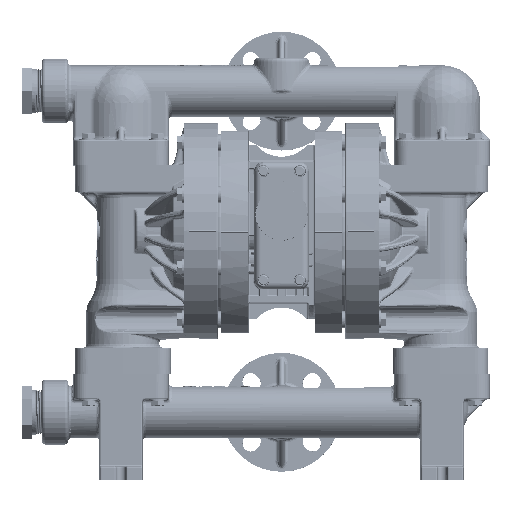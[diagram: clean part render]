
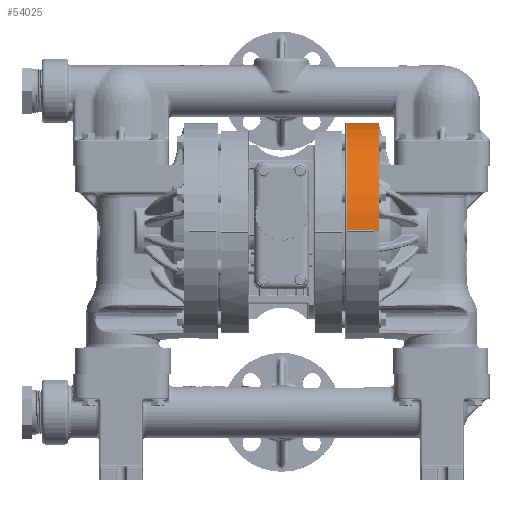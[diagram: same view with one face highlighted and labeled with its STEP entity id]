
A CAD part, top view. The second image highlights one B-rep face of the part: STEP entity #54025.
In plain terms, the highlighted conical face has half-angle 0.5 degrees and reference radius 104.926 mm.
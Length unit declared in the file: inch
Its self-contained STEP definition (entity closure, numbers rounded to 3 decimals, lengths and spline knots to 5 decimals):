
#3066 = EDGE_CURVE ( 'NONE', #161134, #157712, #405696, .T. ) ;
#4058 = CARTESIAN_POINT ( 'NONE',  ( 2.52, 0.09264, 4.12557 ) ) ;
#5358 = EDGE_CURVE ( 'NONE', #157712, #184920, #395876, .T. ) ;
#6618 = DIRECTION ( 'NONE',  ( 1., 0., 0.009 ) ) ;
#10746 = VECTOR ( 'NONE', #385097, 39.37008 ) ;
#16532 = EDGE_CURVE ( 'NONE', #138910, #25227, #196172, .T. ) ;
#20921 = DIRECTION ( 'NONE',  ( 0., 0., -1. ) ) ;
#25227 = VERTEX_POINT ( 'NONE', #227125 ) ;
#25552 = ORIENTED_EDGE ( 'NONE', *, *, #200782, .F. ) ;
#29850 = CARTESIAN_POINT ( 'NONE',  ( 2.52, 0.09264, -4.12557 ) ) ;
#40085 = CARTESIAN_POINT ( 'NONE',  ( 3.52, 0.08382, -4.1344 ) ) ;
#44199 = VERTEX_POINT ( 'NONE', #333488 ) ;
#50039 = CARTESIAN_POINT ( 'NONE',  ( 3.52, 0.08382, -4.1344 ) ) ;
#54025 = ADVANCED_FACE ( 'NONE', ( #440308 ), #200677, .T. ) ;
#54701 = EDGE_CURVE ( 'NONE', #371906, #323415, #192805, .T. ) ;
#59812 = VECTOR ( 'NONE', #6618, 39.37008 ) ;
#67862 = EDGE_CURVE ( 'NONE', #44199, #143361, #103708, .T. ) ;
#72779 = CARTESIAN_POINT ( 'NONE',  ( 2.63079, 0.09166, 4.12655 ) ) ;
#83619 = ORIENTED_EDGE ( 'NONE', *, *, #67862, .F. ) ;
#87701 = ORIENTED_EDGE ( 'NONE', *, *, #3066, .F. ) ;
#89534 = EDGE_CURVE ( 'NONE', #169301, #258052, #371113, .T. ) ;
#91931 = EDGE_CURVE ( 'NONE', #262806, #143361, #311608, .T. ) ;
#102656 = ORIENTED_EDGE ( 'NONE', *, *, #5358, .F. ) ;
#103708 = CIRCLE ( 'NONE', #322540, 4.13634 ) ;
#104238 = DIRECTION ( 'NONE',  ( 0., 0., -1. ) ) ;
#114689 = EDGE_CURVE ( 'NONE', #161134, #371906, #133361, .T. ) ;
#115161 = CARTESIAN_POINT ( 'NONE',  ( 3.72, 0.043, 0. ) ) ;
#118747 = CARTESIAN_POINT ( 'NONE',  ( 2.63079, 0.09166, -4.12655 ) ) ;
#125812 = ORIENTED_EDGE ( 'NONE', *, *, #54701, .T. ) ;
#133361 = CIRCLE ( 'NONE', #399053, 4.12552 ) ;
#133747 = CARTESIAN_POINT ( 'NONE',  ( 2.52, 0.043, 0. ) ) ;
#136663 = CARTESIAN_POINT ( 'NONE',  ( 3.40857, 0.0848, 4.13342 ) ) ;
#138910 = VERTEX_POINT ( 'NONE', #40085 ) ;
#143361 = VERTEX_POINT ( 'NONE', #257070 ) ;
#157712 = VERTEX_POINT ( 'NONE', #356897 ) ;
#158516 = CARTESIAN_POINT ( 'NONE',  ( 2.47948, 0.043, 4.12552 ) ) ;
#161134 = VERTEX_POINT ( 'NONE', #482413 ) ;
#165989 = EDGE_CURVE ( 'NONE', #25227, #44199, #395185, .T. ) ;
#169301 = VERTEX_POINT ( 'NONE', #458655 ) ;
#174762 = VECTOR ( 'NONE', #256306, 39.37008 ) ;
#177193 = CARTESIAN_POINT ( 'NONE',  ( 2.52, 0.043, 4.12587 ) ) ;
#183417 = ORIENTED_EDGE ( 'NONE', *, *, #91931, .T. ) ;
#184920 = VERTEX_POINT ( 'NONE', #29850 ) ;
#192805 = LINE ( 'NONE', #158516, #59812 ) ;
#196172 = CIRCLE ( 'NONE', #203829, 4.1346 ) ;
#200677 = CONICAL_SURFACE ( 'NONE', #419602, 4.13093, 0.009 ) ;
#200782 = EDGE_CURVE ( 'NONE', #262806, #169301, #413539, .T. ) ;
#203829 = AXIS2_PLACEMENT_3D ( 'NONE', #272993, #422394, #293481 ) ;
#206620 = DIRECTION ( 'NONE',  ( 1., 0., -0.009 ) ) ;
#210143 = CARTESIAN_POINT ( 'NONE',  ( 3.09974, 0.043, 0. ) ) ;
#212626 = VECTOR ( 'NONE', #206620, 39.37008 ) ;
#227125 = CARTESIAN_POINT ( 'NONE',  ( 3.52, 0.043, -4.1346 ) ) ;
#227808 = CARTESIAN_POINT ( 'NONE',  ( 3.52, 0.043, 0. ) ) ;
#228910 = CARTESIAN_POINT ( 'NONE',  ( 3.18592, 0.08676, -4.13145 ) ) ;
#233769 = CARTESIAN_POINT ( 'NONE',  ( 3.40857, 0.0848, -4.13342 ) ) ;
#236689 = ORIENTED_EDGE ( 'NONE', *, *, #16532, .F. ) ;
#244733 = CARTESIAN_POINT ( 'NONE',  ( 3.52, 0.043, 4.1346 ) ) ;
#251578 = EDGE_LOOP ( 'NONE', ( #422992, #25552, #183417, #83619, #456843, #236689, #455826, #102656, #87701, #370747, #125812, #272512 ) ) ;
#256306 = DIRECTION ( 'NONE',  ( 1., 0., -0.009 ) ) ;
#257070 = CARTESIAN_POINT ( 'NONE',  ( 3.72, 0.043, 4.13634 ) ) ;
#257829 = B_SPLINE_CURVE_WITH_KNOTS ( 'NONE', 3,
 ( #380742, #118747, #385591, #228910, #233769, #50039 ),
 .UNSPECIFIED., .F., .F.,
 ( 4, 1, 1, 4 ),
 ( 0., 0.33333, 0.66667, 1. ),
 .UNSPECIFIED. ) ;
#258052 = VERTEX_POINT ( 'NONE', #455861 ) ;
#259754 = DIRECTION ( 'NONE',  ( -1., 0., 0. ) ) ;
#262806 = VERTEX_POINT ( 'NONE', #244733 ) ;
#264534 = DIRECTION ( 'NONE',  ( 1., 0., 0. ) ) ;
#272512 = ORIENTED_EDGE ( 'NONE', *, *, #308794, .F. ) ;
#272993 = CARTESIAN_POINT ( 'NONE',  ( 3.52, 0.043, 0. ) ) ;
#274882 = CARTESIAN_POINT ( 'NONE',  ( 3.52, 0.043, 4.1346 ) ) ;
#287537 = CARTESIAN_POINT ( 'NONE',  ( 2.52, 0.043, 0. ) ) ;
#291956 = CARTESIAN_POINT ( 'NONE',  ( 2.47948, 0.043, 4.12552 ) ) ;
#293076 = CIRCLE ( 'NONE', #316798, 4.12587 ) ;
#293481 = DIRECTION ( 'NONE',  ( 0., 0.01, -1. ) ) ;
#308794 = EDGE_CURVE ( 'NONE', #258052, #323415, #293076, .T. ) ;
#311608 = LINE ( 'NONE', #274882, #10746 ) ;
#316798 = AXIS2_PLACEMENT_3D ( 'NONE', #287537, #436932, #395321 ) ;
#317865 = CARTESIAN_POINT ( 'NONE',  ( 2.47948, 0.043, 0. ) ) ;
#320437 = DIRECTION ( 'NONE',  ( 1., 0., 0. ) ) ;
#322540 = AXIS2_PLACEMENT_3D ( 'NONE', #115161, #264534, #465155 ) ;
#323415 = VERTEX_POINT ( 'NONE', #177193 ) ;
#324987 = CARTESIAN_POINT ( 'NONE',  ( 2.47948, 0.043, -4.12552 ) ) ;
#326530 = CARTESIAN_POINT ( 'NONE',  ( 3.52, 0.043, -4.1346 ) ) ;
#333488 = CARTESIAN_POINT ( 'NONE',  ( 3.72, 0.043, -4.13634 ) ) ;
#341348 = AXIS2_PLACEMENT_3D ( 'NONE', #133747, #460214, #104238 ) ;
#356897 = CARTESIAN_POINT ( 'NONE',  ( 2.52, 0.043, -4.12587 ) ) ;
#359432 = DIRECTION ( 'NONE',  ( 1., 0., 0. ) ) ;
#370747 = ORIENTED_EDGE ( 'NONE', *, *, #114689, .T. ) ;
#371113 = B_SPLINE_CURVE_WITH_KNOTS ( 'NONE', 3,
 ( #472202, #136663, #479434, #447500, #72779, #4058 ),
 .UNSPECIFIED., .F., .F.,
 ( 4, 1, 1, 4 ),
 ( 0., 0.33333, 0.66667, 1. ),
 .UNSPECIFIED. ) ;
#371906 = VERTEX_POINT ( 'NONE', #291956 ) ;
#374346 = AXIS2_PLACEMENT_3D ( 'NONE', #227808, #259754, #448312 ) ;
#380742 = CARTESIAN_POINT ( 'NONE',  ( 2.52, 0.09264, -4.12557 ) ) ;
#385097 = DIRECTION ( 'NONE',  ( 1., 0., 0.009 ) ) ;
#385591 = CARTESIAN_POINT ( 'NONE',  ( 2.85259, 0.0897, -4.12851 ) ) ;
#395185 = LINE ( 'NONE', #326530, #212626 ) ;
#395321 = DIRECTION ( 'NONE',  ( 0., 0.012, 1. ) ) ;
#395876 = CIRCLE ( 'NONE', #341348, 4.12587 ) ;
#399053 = AXIS2_PLACEMENT_3D ( 'NONE', #317865, #359432, #20921 ) ;
#405696 = LINE ( 'NONE', #324987, #174762 ) ;
#411191 = EDGE_CURVE ( 'NONE', #184920, #138910, #257829, .T. ) ;
#413539 = CIRCLE ( 'NONE', #374346, 4.1346 ) ;
#419602 = AXIS2_PLACEMENT_3D ( 'NONE', #210143, #320437, #442734 ) ;
#422394 = DIRECTION ( 'NONE',  ( -1., 0., 0. ) ) ;
#422992 = ORIENTED_EDGE ( 'NONE', *, *, #89534, .F. ) ;
#436932 = DIRECTION ( 'NONE',  ( 1., 0., 0. ) ) ;
#440308 = FACE_OUTER_BOUND ( 'NONE', #251578, .T. ) ;
#442734 = DIRECTION ( 'NONE',  ( 0., 0., -1. ) ) ;
#447500 = CARTESIAN_POINT ( 'NONE',  ( 2.85259, 0.0897, 4.12851 ) ) ;
#448312 = DIRECTION ( 'NONE',  ( 0., 0., 1. ) ) ;
#455826 = ORIENTED_EDGE ( 'NONE', *, *, #411191, .F. ) ;
#455861 = CARTESIAN_POINT ( 'NONE',  ( 2.52, 0.09264, 4.12557 ) ) ;
#456843 = ORIENTED_EDGE ( 'NONE', *, *, #165989, .F. ) ;
#458655 = CARTESIAN_POINT ( 'NONE',  ( 3.52, 0.08382, 4.1344 ) ) ;
#460214 = DIRECTION ( 'NONE',  ( 1., 0., 0. ) ) ;
#465155 = DIRECTION ( 'NONE',  ( 0., 0., -1. ) ) ;
#472202 = CARTESIAN_POINT ( 'NONE',  ( 3.52, 0.08382, 4.1344 ) ) ;
#479434 = CARTESIAN_POINT ( 'NONE',  ( 3.18592, 0.08676, 4.13145 ) ) ;
#482413 = CARTESIAN_POINT ( 'NONE',  ( 2.47948, 0.043, -4.12552 ) ) ;
